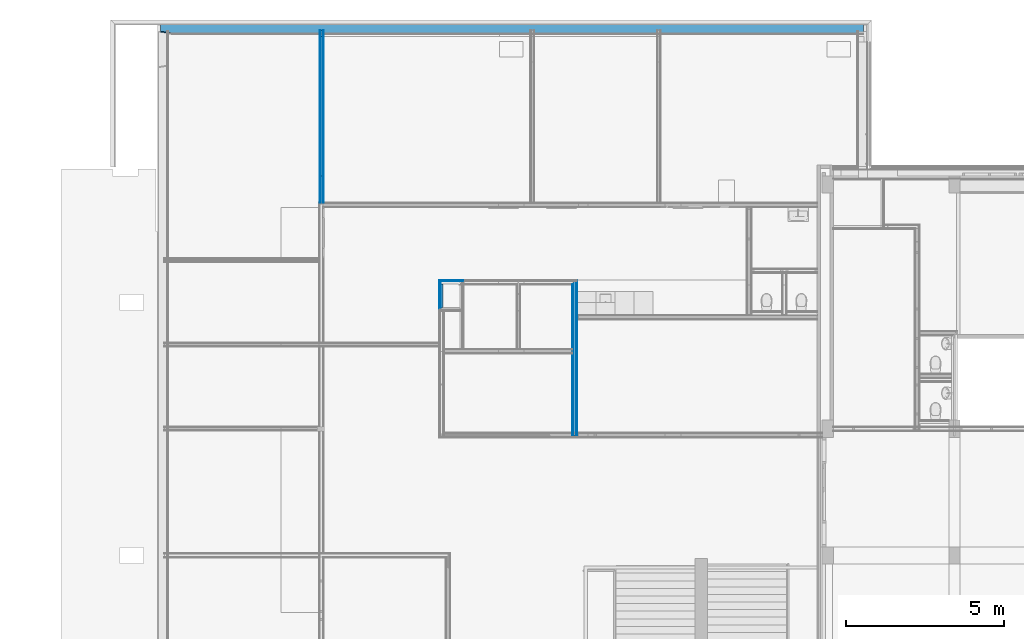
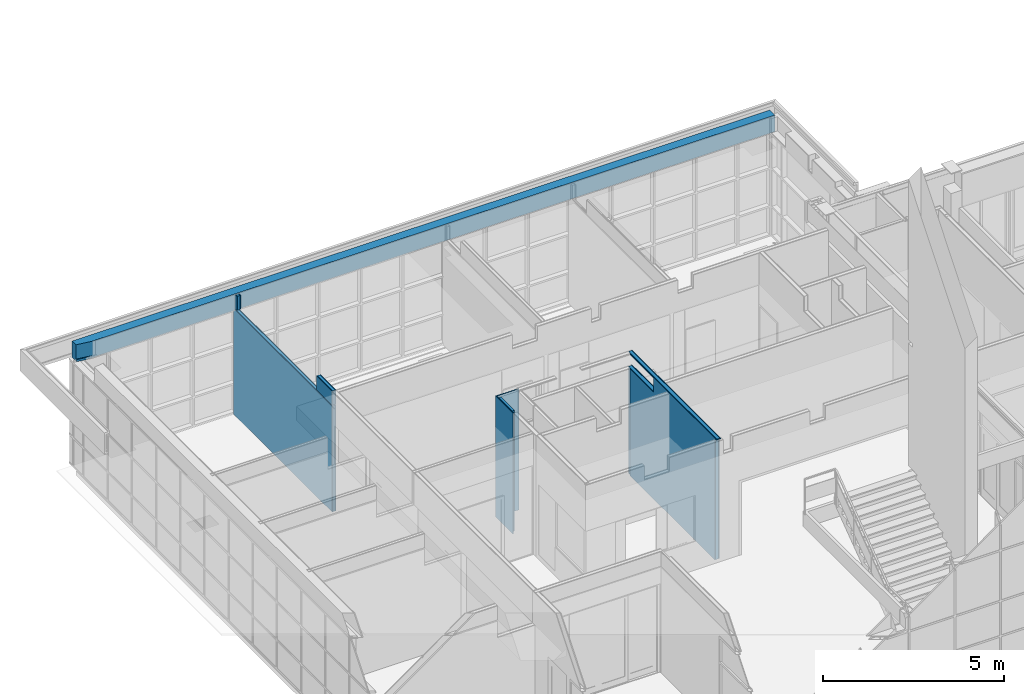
# One storey, part 43 of 109: 18 building element parts, 5 elements without a shape of their own.
"""IFC2X3 building model written with IfcOpenShell, lengths in millimetres."""

from ifc_helpers import new_model, entity, si_unit, converted_unit, derived_unit, money_unit, direction, frame, origin_with_axes, place, context, subcontext, project, spatial, faceted_brep, material, type_object, element, aggregate, save


model = new_model("IFC2X3")

# Units and contexts
model_context = context("Model", 3, precision=0.01, world=origin_with_axes(), true_north=direction((0.0, 1.0)))
body_context = subcontext(model_context, "Body", "Model", "MODEL_VIEW")
ifc_project = project(units=[si_unit("LENGTHUNIT", "METRE", prefix="MILLI"), si_unit("AREAUNIT", "SQUARE_METRE"), si_unit("VOLUMEUNIT", "CUBIC_METRE"), converted_unit("PLANEANGLEUNIT", "DEGREE", entity("IfcPlaneAngleMeasure", 0.0174532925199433), si_unit("PLANEANGLEUNIT", "RADIAN"), dimensions=[0, 0, 0, 0, 0, 0, 0]), money_unit("EUR"), converted_unit("TIMEUNIT", "Year", entity("IfcTimeMeasure", 31557600.0), si_unit("TIMEUNIT", "SECOND"), dimensions=[0, 0, 1, 0, 0, 0, 0]), si_unit("MASSUNIT", "GRAM", prefix="KILO"), si_unit("THERMODYNAMICTEMPERATUREUNIT", "DEGREE_CELSIUS"), si_unit("LUMINOUSINTENSITYUNIT", "LUMEN"), si_unit("ENERGYUNIT", "JOULE", prefix="MEGA"), derived_unit("THERMALCONDUCTANCEUNIT", [(si_unit("POWERUNIT", "WATT"), 1), (si_unit("LENGTHUNIT", "METRE"), -1), (si_unit("THERMODYNAMICTEMPERATUREUNIT", "KELVIN"), -1)]), derived_unit("SPECIFICHEATCAPACITYUNIT", [(si_unit("ENERGYUNIT", "JOULE"), 1), (si_unit("MASSUNIT", "GRAM", prefix="KILO"), -1), (si_unit("THERMODYNAMICTEMPERATUREUNIT", "KELVIN"), -1)]), derived_unit("MASSDENSITYUNIT", [(si_unit("MASSUNIT", "GRAM", prefix="KILO"), 1), (si_unit("VOLUMEUNIT", "CUBIC_METRE"), -1)])], contexts=[model_context])

# Site, building, storey
site_placement = place(None, origin_with_axes())
site = spatial("IfcSite", under=ifc_project, at=site_placement, Name="<site naam>", CompositionType="ELEMENT")
building_placement = place(site_placement, origin_with_axes())
building = spatial("IfcBuilding", under=site, at=building_placement, Name="<Naam gebouw>", CompositionType="ELEMENT")
storey_placement = place(building_placement, origin_with_axes())
storey = spatial("IfcBuildingStorey", under=building, at=storey_placement, Name="00 Begane grond", CompositionType="ELEMENT", Elevation=0.0)

# Wall, building element parts
wall_type_1 = type_object("IfcWallType", Name="MS-01 GF 150 ECO DGS/2.100.2.A 150", PredefinedType="NOTDEFINED")
wall_1_placement = place(storey_placement, frame((4000.000000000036, 11800.00000000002, 0.0), z_axis=(0.0, 0.0, 1.0), x_axis=(0.0, 1.0, 0.0)))
wall_1 = element("IfcWall", 1, at=wall_1_placement, inside=storey, type_object=wall_type_1, Name="22_Binnenwand_MS-01")
ifc_material_1 = material(Name="gipsplaat")
building_element_part_1_placement = place(wall_1_placement, origin_with_axes())
building_element_part_1 = element("IfcBuildingElementPart", 2, at=building_element_part_1_placement, material=ifc_material_1, Name="gipsplaat", context=body_context, shape_type="Brep", body=[
    faceted_brep([(3449.99999999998, 62.50000000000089, 3600.0), (3449.99999999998, 62.50000000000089, 4070.0), (4762.499999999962, 62.50000000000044, 4070.0), (4762.499999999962, 62.50000000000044, 4100.000044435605), (0.0, 62.50000000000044, 4100.000044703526), (0.0, 62.50000000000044, 4070.0), (75.00000000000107, 62.50000000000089, 4070.0), (74.99999999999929, 62.50000000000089, 0.0), (4762.499999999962, 62.5, 0.0), (4762.499999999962, 62.50000000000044, 3600.0), (3449.99999999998, 75.00000000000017, 3600.0), (3449.99999999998, 75.00000000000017, 4070.0), (4762.499999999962, 75.00000000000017, 4070.0), (4762.499999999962, 75.00000000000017, 4100.000044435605), (0.0, 75.00000000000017, 4100.000044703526), (0.0, 75.00000000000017, 4070.0), (75.00000000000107, 75.00000000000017, 4070.0), (74.99999999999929, 74.99999999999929, 0.0), (4762.499999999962, 75.00000000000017, 0.0), (4762.499999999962, 75.00000000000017, 3600.0)], [[[0, 1, 2, 3, 4, 5, 6, 7, 8, 9]], [[1, 0, 10, 11]], [[12, 2, 1, 11]], [[2, 12, 13, 3]], [[3, 13, 14, 4]], [[14, 15, 5, 4]], [[15, 16, 6, 5]], [[17, 7, 6, 16]], [[8, 7, 17, 18]], [[19, 9, 8, 18]], [[0, 9, 19, 10]], [[10, 19, 18, 17, 16, 15, 14, 13, 12, 11]]]),
])
building_element_part_2_placement = place(wall_1_placement, origin_with_axes())
building_element_part_2 = element("IfcBuildingElementPart", 3, at=building_element_part_2_placement, material=ifc_material_1, Name="gipsplaat", context=body_context, shape_type="Brep", body=[
    faceted_brep([(3449.99999999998, 49.99999999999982, 3600.0), (3449.99999999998, 49.99999999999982, 4070.0), (4774.999999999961, 50.00000000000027, 4070.0), (4774.999999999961, 50.00000000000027, 4100.000044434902), (0.0, 50.00000000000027, 4100.000044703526), (0.0, 50.00000000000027, 4070.0), (75.00000000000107, 49.99999999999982, 4070.0), (74.99999999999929, 50.00000000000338, 0.0), (4774.999999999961, 49.99999999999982, 0.0), (4774.999999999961, 50.00000000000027, 3600.0), (3449.99999999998, 62.50000000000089, 3600.0), (3449.99999999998, 62.50000000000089, 4070.0), (4774.999999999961, 62.50000000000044, 4070.0), (4774.999999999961, 62.50000000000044, 4100.000044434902), (0.0, 62.50000000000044, 4100.000044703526), (0.0, 62.50000000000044, 4070.0), (75.00000000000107, 62.50000000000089, 4070.0), (74.99999999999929, 62.50000000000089, 0.0), (4774.999999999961, 62.5, 0.0), (4774.999999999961, 62.50000000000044, 3600.0)], [[[0, 1, 2, 3, 4, 5, 6, 7, 8, 9]], [[1, 0, 10, 11]], [[12, 2, 1, 11]], [[2, 12, 13, 3]], [[3, 13, 14, 4]], [[14, 15, 5, 4]], [[15, 16, 6, 5]], [[17, 7, 6, 16]], [[8, 7, 17, 18]], [[19, 9, 8, 18]], [[0, 9, 19, 10]], [[10, 19, 18, 17, 16, 15, 14, 13, 12, 11]]]),
])
building_element_part_3_placement = place(wall_1_placement, origin_with_axes())
building_element_part_3 = element("IfcBuildingElementPart", 4, at=building_element_part_3_placement, material=ifc_material_1, Name="gipsplaat", context=body_context, shape_type="Brep", body=[
    faceted_brep([(3449.99999999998, -74.99999999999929, 3600.0), (3449.99999999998, -74.99999999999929, 4070.0), (4899.999999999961, -75.00000000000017, 4070.0), (4899.999999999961, -75.00000000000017, 4100.00004442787), (0.0, -75.00000000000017, 4100.000044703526), (0.0, -75.00000000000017, 4070.0), (75.00000000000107, -74.99999999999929, 4070.0), (74.99999999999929, -74.99999999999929, 0.0), (4899.999999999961, -75.00000000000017, 0.0), (4899.999999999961, -75.00000000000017, 3600.0), (3449.99999999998, -62.5, 3600.0), (3449.99999999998, -62.5, 4070.0), (4899.999999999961, -62.5, 4070.0), (4899.999999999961, -62.5, 4100.00004442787), (0.0, -62.5, 4100.000044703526), (0.0, -62.5, 4070.0), (75.00000000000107, -62.5, 4070.0), (74.99999999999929, -62.5, 0.0), (4899.999999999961, -62.5, 0.0), (4899.999999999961, -62.5, 3600.0)], [[[0, 1, 2, 3, 4, 5, 6, 7, 8, 9]], [[1, 0, 10, 11]], [[12, 2, 1, 11]], [[2, 12, 13, 3]], [[3, 13, 14, 4]], [[14, 15, 5, 4]], [[15, 16, 6, 5]], [[17, 7, 6, 16]], [[8, 7, 17, 18]], [[19, 9, 8, 18]], [[0, 9, 19, 10]], [[10, 19, 18, 17, 16, 15, 14, 13, 12, 11]]]),
])
ifc_material_2 = material(Name="isolatie_steenwol LSW")
building_element_part_4_placement = place(wall_1_placement, origin_with_axes())
building_element_part_4 = element("IfcBuildingElementPart", 5, at=building_element_part_4_placement, material=ifc_material_2, Name="isolatie_steenwol LSW", context=body_context, shape_type="Brep", body=[
    faceted_brep([(3449.99999999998, -49.99999999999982, 3600.0), (3449.99999999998, -49.99999999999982, 4070.0), (4874.999999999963, -49.99999999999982, 4070.0), (4874.999999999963, -49.99999999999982, 4100.000044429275), (0.0, -49.99999999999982, 4100.000044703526), (0.0, -49.99999999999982, 4070.0), (75.00000000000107, -49.99999999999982, 4070.0), (74.99999999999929, -49.99999999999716, 0.0), (4874.999999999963, -49.99999999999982, 0.0), (4874.999999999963, -49.99999999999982, 3600.0), (3449.99999999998, 49.99999999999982, 3600.0), (3449.99999999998, 49.99999999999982, 4070.0), (4874.999999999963, 50.00000000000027, 4070.0), (4874.999999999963, 50.00000000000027, 4100.000044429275), (0.0, 50.00000000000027, 4100.000044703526), (0.0, 50.00000000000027, 4070.0), (75.00000000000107, 49.99999999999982, 4070.0), (74.99999999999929, 50.00000000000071, 0.0), (4874.999999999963, 49.99999999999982, 0.0), (4874.999999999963, 50.00000000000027, 3600.0)], [[[0, 1, 2, 3, 4, 5, 6, 7, 8, 9]], [[1, 0, 10, 11]], [[12, 2, 1, 11]], [[2, 12, 13, 3]], [[3, 13, 14, 4]], [[14, 15, 5, 4]], [[15, 16, 6, 5]], [[17, 7, 6, 16]], [[8, 7, 17, 18]], [[19, 9, 8, 18]], [[0, 9, 19, 10]], [[10, 19, 18, 17, 16, 15, 14, 13, 12, 11]]]),
])
building_element_part_5_placement = place(wall_1_placement, origin_with_axes())
building_element_part_5 = element("IfcBuildingElementPart", 6, at=building_element_part_5_placement, material=ifc_material_1, Name="gipsplaat", context=body_context, shape_type="Brep", body=[
    faceted_brep([(3449.99999999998, -62.5, 3600.0), (3449.99999999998, -62.5, 4070.0), (4887.499999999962, -62.5, 4070.0), (4887.499999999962, -62.5, 4100.000044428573), (0.0, -62.5, 4100.000044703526), (0.0, -62.5, 4070.0), (75.00000000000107, -62.5, 4070.0), (74.99999999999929, -62.5, 0.0), (4887.499999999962, -62.5, 0.0), (4887.499999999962, -62.5, 3600.0), (3449.99999999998, -49.99999999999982, 3600.0), (3449.99999999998, -49.99999999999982, 4070.0), (4887.499999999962, -49.99999999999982, 4070.0), (4887.499999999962, -49.99999999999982, 4100.000044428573), (0.0, -49.99999999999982, 4100.000044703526), (0.0, -49.99999999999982, 4070.0), (75.00000000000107, -49.99999999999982, 4070.0), (74.99999999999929, -49.99999999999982, 0.0), (4887.499999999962, -49.99999999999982, 0.0), (4887.499999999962, -49.99999999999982, 3600.0)], [[[0, 1, 2, 3, 4, 5, 6, 7, 8, 9]], [[1, 0, 10, 11]], [[12, 2, 1, 11]], [[2, 12, 13, 3]], [[3, 13, 14, 4]], [[14, 15, 5, 4]], [[15, 16, 6, 5]], [[17, 7, 6, 16]], [[8, 7, 17, 18]], [[19, 9, 8, 18]], [[0, 9, 19, 10]], [[10, 19, 18, 17, 16, 15, 14, 13, 12, 11]]]),
])
aggregate(wall_1, [building_element_part_1, building_element_part_2, building_element_part_3, building_element_part_4, building_element_part_5])

wall_type_2 = type_object("IfcWallType", Name="MS-02 GF 125 ECO DGS/2.75.2.A 125", PredefinedType="NOTDEFINED")
wall_2_placement = place(storey_placement, frame((-3999.999999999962, 18999.99999999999, 0.0), z_axis=(0.0, 0.0, 1.0), x_axis=(0.0, 1.0, 0.0)))
wall_2 = element("IfcWall", 7, at=wall_2_placement, inside=storey, type_object=wall_type_2, Name="22_Binnenwand_MS-02")
building_element_part_6_placement = place(wall_2_placement, origin_with_axes())
building_element_part_6 = element("IfcBuildingElementPart", 8, at=building_element_part_6_placement, material=ifc_material_1, Name="gipsplaat", context=body_context, shape_type="Brep", body=[
    faceted_brep([(1000.000000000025, 50.00000000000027, 3600.0), (1000.000000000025, 50.00000000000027, 3620.0), (1000.000000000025, 50.00000000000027, 4070.0), (149.9999999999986, 50.00000000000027, 4070.0), (149.9999999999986, 50.00000000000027, 3600.0), (1000.000000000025, 62.50000000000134, 3620.0), (1000.000000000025, 62.50000000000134, 3600.0), (1000.000000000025, 62.50000000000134, 4070.0), (149.9999999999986, 62.50000000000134, 4070.0), (149.9999999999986, 62.50000000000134, 3600.0)], [[[0, 1, 2, 3, 4]], [[5, 1, 0, 6]], [[1, 5, 7, 2]], [[3, 2, 7, 8]], [[3, 8, 9, 4]], [[6, 0, 4, 9]], [[5, 6, 9, 8, 7]]]),
    faceted_brep([(5400.000000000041, 62.50000000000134, 3620.0), (5400.000000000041, 50.00000000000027, 3620.0), (5400.000000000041, 50.00000000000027, 4070.0), (5400.000000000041, 62.50000000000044, 4070.0), (5400.000000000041, 50.00000000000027, 3600.0), (5400.000000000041, 62.50000000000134, 3600.0), (5468.000245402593, 50.00000000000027, 3600.0), (5468.000245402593, 50.00000000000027, 3560.0), (149.9999999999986, 50.00000000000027, 3560.0), (149.9999999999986, 50.00000000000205, 0.0), (5596.497754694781, 50.00000000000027, 0.0), (5596.497754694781, 50.00000000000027, 4070.0), (5596.497754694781, 62.50000000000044, 4070.0), (5596.497754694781, 62.50000000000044, 0.0), (149.9999999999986, 62.50000000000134, 0.0), (149.9999999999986, 62.50000000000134, 3560.0), (5468.000245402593, 62.50000000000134, 3560.0), (5468.000245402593, 62.50000000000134, 3600.0)], [[[0, 1, 2, 3]], [[4, 1, 0, 5]], [[1, 4, 6, 7, 8, 9, 10, 11, 2]], [[12, 3, 2, 11]], [[5, 0, 3, 12, 13, 14, 15, 16, 17]], [[4, 5, 17, 6]], [[17, 16, 7, 6]], [[16, 15, 8, 7]], [[14, 9, 8, 15]], [[14, 13, 10, 9]], [[10, 13, 12, 11]]]),
])
building_element_part_7_placement = place(wall_2_placement, origin_with_axes())
building_element_part_7 = element("IfcBuildingElementPart", 9, at=building_element_part_7_placement, material=ifc_material_1, Name="gipsplaat", context=body_context, shape_type="Brep", body=[
    faceted_brep([(1000.000000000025, 37.50000000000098, 3600.0), (1000.000000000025, 37.50000000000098, 3620.0), (1000.000000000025, 37.50000000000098, 4070.0), (149.9999999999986, 37.50000000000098, 4070.0), (149.9999999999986, 37.50000000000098, 3600.0), (1000.000000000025, 50.00000000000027, 3620.0), (1000.000000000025, 50.00000000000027, 3600.0), (1000.000000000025, 50.00000000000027, 4070.0), (149.9999999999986, 50.00000000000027, 4070.0), (149.9999999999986, 50.00000000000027, 3600.0)], [[[0, 1, 2, 3, 4]], [[5, 1, 0, 6]], [[1, 5, 7, 2]], [[3, 2, 7, 8]], [[3, 8, 9, 4]], [[6, 0, 4, 9]], [[5, 6, 9, 8, 7]]]),
    faceted_brep([(5400.000000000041, 50.00000000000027, 3620.0), (5400.000000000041, 37.50000000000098, 3620.0), (5400.000000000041, 37.50000000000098, 4070.0), (5400.000000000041, 50.00000000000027, 4070.0), (5400.000000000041, 37.50000000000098, 3600.0), (5400.000000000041, 50.00000000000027, 3600.0), (5468.000245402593, 37.50000000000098, 3600.0), (5468.000245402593, 37.50000000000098, 3560.0), (149.9999999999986, 37.50000000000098, 3560.0), (149.9999999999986, 37.50000000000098, 0.0), (5596.497754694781, 37.50000000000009, 0.0), (5596.497754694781, 37.50000000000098, 4070.0), (5596.497754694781, 50.00000000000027, 4070.0), (5596.497754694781, 50.00000000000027, 0.0), (149.9999999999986, 50.00000000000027, 0.0), (149.9999999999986, 50.00000000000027, 3560.0), (5468.000245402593, 50.00000000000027, 3560.0), (5468.000245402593, 50.00000000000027, 3600.0)], [[[0, 1, 2, 3]], [[4, 1, 0, 5]], [[1, 4, 6, 7, 8, 9, 10, 11, 2]], [[12, 3, 2, 11]], [[5, 0, 3, 12, 13, 14, 15, 16, 17]], [[4, 5, 17, 6]], [[17, 16, 7, 6]], [[16, 15, 8, 7]], [[14, 9, 8, 15]], [[14, 13, 10, 9]], [[10, 13, 12, 11]]]),
])
building_element_part_8_placement = place(wall_2_placement, origin_with_axes())
building_element_part_8 = element("IfcBuildingElementPart", 10, at=building_element_part_8_placement, material=ifc_material_1, Name="gipsplaat", context=body_context, shape_type="Brep", body=[
    faceted_brep([(1000.000000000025, -49.99999999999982, 3600.0), (1000.000000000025, -50.00000000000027, 3620.0), (1000.000000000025, -49.99999999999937, 4070.0), (149.9999999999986, -49.99999999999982, 4070.0), (149.9999999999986, -49.99999999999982, 3600.0), (1000.000000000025, -37.50000000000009, 3620.0), (1000.000000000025, -37.4999999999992, 3600.0), (1000.000000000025, -37.4999999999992, 4070.0), (149.9999999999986, -37.49999999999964, 4070.0), (149.9999999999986, -37.49999999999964, 3600.0)], [[[0, 1, 2, 3, 4]], [[5, 1, 0, 6]], [[1, 5, 7, 2]], [[3, 2, 7, 8]], [[3, 8, 9, 4]], [[6, 0, 4, 9]], [[5, 6, 9, 8, 7]]]),
    faceted_brep([(5400.000000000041, -37.50000000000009, 3620.0), (5400.000000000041, -50.00000000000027, 3620.0), (5400.000000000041, -49.99999999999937, 4070.0), (5400.000000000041, -37.4999999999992, 4070.0), (5400.000000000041, -50.00000000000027, 3600.0), (5400.000000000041, -37.50000000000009, 3600.0), (5468.000245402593, -50.00000000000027, 3600.0), (5468.000245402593, -50.00000000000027, 3560.0), (149.9999999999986, -49.99999999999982, 3560.0), (149.9999999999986, -49.99999999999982, 0.0), (5596.497754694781, -49.99999999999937, 0.0), (5596.497754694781, -49.99999999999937, 4070.0), (5596.497754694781, -37.4999999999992, 4070.0), (5596.497754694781, -37.50000000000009, 0.0), (149.9999999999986, -37.50000000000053, 0.0), (149.9999999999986, -37.49999999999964, 3560.0), (5468.000245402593, -37.50000000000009, 3560.0), (5468.000245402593, -37.50000000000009, 3600.0)], [[[0, 1, 2, 3]], [[4, 1, 0, 5]], [[1, 4, 6, 7, 8, 9, 10, 11, 2]], [[12, 3, 2, 11]], [[5, 0, 3, 12, 13, 14, 15, 16, 17]], [[4, 5, 17, 6]], [[17, 16, 7, 6]], [[16, 15, 8, 7]], [[14, 9, 8, 15]], [[14, 13, 10, 9]], [[10, 13, 12, 11]]]),
])
building_element_part_9_placement = place(wall_2_placement, origin_with_axes())
building_element_part_9 = element("IfcBuildingElementPart", 11, at=building_element_part_9_placement, material=ifc_material_2, Name="isolatie_steenwol LSW", context=body_context, shape_type="Brep", body=[
    faceted_brep([(1000.000000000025, -37.50000000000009, 3600.0), (1000.000000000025, -37.50000000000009, 3620.0), (1000.000000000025, -37.50000000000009, 4070.0), (149.9999999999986, -37.50000000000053, 4070.0), (149.9999999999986, -37.50000000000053, 3600.0), (1000.000000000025, 37.50000000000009, 3620.0), (1000.000000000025, 37.50000000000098, 3600.0), (1000.000000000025, 37.50000000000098, 4070.0), (149.9999999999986, 37.50000000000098, 4070.0), (149.9999999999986, 37.50000000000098, 3600.0)], [[[0, 1, 2, 3, 4]], [[5, 1, 0, 6]], [[1, 5, 7, 2]], [[3, 2, 7, 8]], [[3, 8, 9, 4]], [[6, 0, 4, 9]], [[5, 6, 9, 8, 7]]]),
    faceted_brep([(5400.000000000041, 37.50000000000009, 3620.0), (5400.000000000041, -37.50000000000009, 3620.0), (5400.000000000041, -37.4999999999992, 4070.0), (5400.000000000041, 37.50000000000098, 4070.0), (5400.000000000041, -37.50000000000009, 3600.0), (5400.000000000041, 37.50000000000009, 3600.0), (5468.000245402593, -37.50000000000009, 3600.0), (5468.000245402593, -37.50000000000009, 3560.0), (149.9999999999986, -37.50000000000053, 3560.0), (149.9999999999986, -37.49999999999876, 0.0), (5596.497754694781, -37.50000000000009, 0.0), (5596.497754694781, -37.4999999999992, 4070.0), (5596.497754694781, 37.50000000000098, 4070.0), (5596.497754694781, 37.50000000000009, 0.0), (149.9999999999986, 37.50000000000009, 0.0), (149.9999999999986, 37.50000000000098, 3560.0), (5468.000245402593, 37.50000000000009, 3560.0), (5468.000245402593, 37.50000000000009, 3600.0)], [[[0, 1, 2, 3]], [[4, 1, 0, 5]], [[1, 4, 6, 7, 8, 9, 10, 11, 2]], [[12, 3, 2, 11]], [[5, 0, 3, 12, 13, 14, 15, 16, 17]], [[4, 5, 17, 6]], [[17, 16, 7, 6]], [[16, 15, 8, 7]], [[14, 9, 8, 15]], [[14, 13, 10, 9]], [[10, 13, 12, 11]]]),
])
building_element_part_10_placement = place(wall_2_placement, origin_with_axes())
building_element_part_10 = element("IfcBuildingElementPart", 12, at=building_element_part_10_placement, material=ifc_material_1, Name="gipsplaat", context=body_context, shape_type="Brep", body=[
    faceted_brep([(1000.000000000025, -62.49999999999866, 3600.0), (1000.000000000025, -62.49999999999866, 3620.0), (1000.000000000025, -62.49999999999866, 4070.0), (149.9999999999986, -62.49999999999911, 4070.0), (149.9999999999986, -62.49999999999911, 3600.0), (1000.000000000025, -50.00000000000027, 3620.0), (1000.000000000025, -49.99999999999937, 3600.0), (1000.000000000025, -49.99999999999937, 4070.0), (149.9999999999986, -49.99999999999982, 4070.0), (149.9999999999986, -49.99999999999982, 3600.0)], [[[0, 1, 2, 3, 4]], [[5, 1, 0, 6]], [[1, 5, 7, 2]], [[3, 2, 7, 8]], [[3, 8, 9, 4]], [[6, 0, 4, 9]], [[5, 6, 9, 8, 7]]]),
    faceted_brep([(5400.000000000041, -50.00000000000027, 3620.0), (5400.000000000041, -62.49999999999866, 3620.0), (5400.000000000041, -62.49999999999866, 4070.0), (5400.000000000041, -49.99999999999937, 4070.0), (5400.000000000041, -62.49999999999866, 3600.0), (5400.000000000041, -50.00000000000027, 3600.0), (5468.000245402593, -62.49999999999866, 3600.0), (5468.000245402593, -62.49999999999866, 3560.0), (149.9999999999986, -62.49999999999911, 3560.0), (149.9999999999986, -62.49999999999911, 0.0), (5596.497754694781, -62.49999999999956, 0.0), (5596.497754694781, -62.49999999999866, 4070.0), (5596.497754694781, -49.99999999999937, 4070.0), (5596.497754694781, -49.99999999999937, 0.0), (149.9999999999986, -49.99999999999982, 0.0), (149.9999999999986, -49.99999999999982, 3560.0), (5468.000245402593, -50.00000000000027, 3560.0), (5468.000245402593, -50.00000000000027, 3600.0)], [[[0, 1, 2, 3]], [[4, 1, 0, 5]], [[1, 4, 6, 7, 8, 9, 10, 11, 2]], [[12, 3, 2, 11]], [[5, 0, 3, 12, 13, 14, 15, 16, 17]], [[4, 5, 17, 6]], [[17, 16, 7, 6]], [[16, 15, 8, 7]], [[14, 9, 8, 15]], [[14, 13, 10, 9]], [[10, 13, 12, 11]]]),
])
aggregate(wall_2, [building_element_part_6, building_element_part_7, building_element_part_8, building_element_part_9, building_element_part_10])

wall_type_3 = type_object("IfcWallType", Name="MS-04 GF 138 V/100.3.A 113", PredefinedType="NOTDEFINED")
wall_3_placement = place(storey_placement, frame((375.0444681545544, 16699.9999757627, 0.0), z_axis=(0.0, 0.0, 1.0), x_axis=(-0.999999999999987, -1.615818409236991e-07, 0.0)))
wall_3 = element("IfcWall", 13, at=wall_3_placement, inside=storey, type_object=wall_type_3, Name="22_Binnenwand_MS-04")
building_element_part_11_placement = place(wall_3_placement, origin_with_axes())
building_element_part_11 = element("IfcBuildingElementPart", 14, at=building_element_part_11_placement, material=ifc_material_1, Name="gipsplaat", context=body_context, shape_type="Brep", body=[
    faceted_brep([(637.5446075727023, 12.49999999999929, 0.0), (-87.49999798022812, 12.49999999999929, 0.0), (-87.4999959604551, 24.99999999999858, 0.0), (637.5446075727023, 24.99999999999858, 0.0), (637.5446075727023, 12.49999999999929, 4070.0), (-87.49999798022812, 12.49999999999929, 4070.0), (-87.4999959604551, 24.99999999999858, 4070.0), (637.5446075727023, 24.99999999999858, 4070.0)], [[[0, 1, 2, 3]], [[4, 5, 1, 0]], [[2, 1, 5, 6]], [[3, 2, 6, 7]], [[3, 7, 4, 0]], [[7, 6, 5, 4]]]),
])
building_element_part_12_placement = place(wall_3_placement, origin_with_axes())
building_element_part_12 = element("IfcBuildingElementPart", 15, at=building_element_part_12_placement, material=ifc_material_1, Name="gipsplaat", context=body_context, shape_type="Brep", body=[
    faceted_brep([(650.0446075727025, 0.0, 0.0), (-100.0000000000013, 0.0, 0.0), (-99.99999798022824, 12.50000000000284, 0.0), (650.0446075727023, 12.49999999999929, 0.0), (650.0446075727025, 0.0, 4070.0), (-100.0000000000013, 0.0, 4070.0), (-99.99999798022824, 12.50000000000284, 4070.0), (650.0446075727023, 12.49999999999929, 4070.0)], [[[0, 1, 2, 3]], [[4, 5, 1, 0]], [[2, 1, 5, 6]], [[3, 2, 6, 7]], [[3, 7, 4, 0]], [[7, 6, 5, 4]]]),
])
building_element_part_13_placement = place(wall_3_placement, origin_with_axes())
building_element_part_13 = element("IfcBuildingElementPart", 16, at=building_element_part_13_placement, material=ifc_material_1, Name="gipsplaat", context=body_context, shape_type="Brep", body=[
    faceted_brep([(625.0446075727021, 25.00000000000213, 0.0), (-74.99999596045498, 25.00000000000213, 0.0), (-74.99999394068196, 37.50000000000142, 0.0), (625.0446075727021, 37.50000000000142, 0.0), (625.0446075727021, 25.00000000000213, 4070.0), (-74.99999596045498, 25.00000000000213, 4070.0), (-74.99999394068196, 37.50000000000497, 4070.0), (625.0446075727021, 37.50000000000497, 4070.0)], [[[0, 1, 2, 3]], [[4, 5, 1, 0]], [[2, 1, 5, 6]], [[3, 2, 6, 7]], [[3, 7, 4, 0]], [[7, 6, 5, 4]]]),
])
aggregate(wall_3, [building_element_part_11, building_element_part_12, building_element_part_13])

# Wall, building element part
wall_type_4 = type_object("IfcWallType", Name="HSB_285 zonder gevelbeplating 313", PredefinedType="NOTDEFINED")
wall_4_placement = place(storey_placement, frame((-9087.46338968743, 24780.50024437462, 3546.974528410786), z_axis=(0.0, 0.0, 1.0), x_axis=(1.0, 0.0, 0.0)))
wall_4 = element("IfcWall", 17, at=wall_4_placement, inside=storey, type_object=wall_type_4, Name="21_Binnenwand_HSB_285")
ifc_material_3 = material(Name="isolatie_houtvezel")
building_element_part_14_placement = place(wall_4_placement, origin_with_axes())
building_element_part_14 = element("IfcBuildingElementPart", 18, at=building_element_part_14_placement, material=ifc_material_3, Name="isolatie_houtvezel", context=body_context, shape_type="Brep", body=[
    faceted_brep([(0.0, -210.5840897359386, 553.0254229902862), (476.2618256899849, -285.0000000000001, 553.0254229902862), (22214.96341382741, -285.0000000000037, 553.0254229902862), (22214.96341382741, 0.0, 553.0254229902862), (0.0, 0.0, 553.0254229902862), (476.2618256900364, -285.0000000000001, 73.02547158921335), (0.0, -210.584089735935, 73.0254715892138), (272.1864542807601, -284.9999999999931, 73.02547158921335), (272.1864542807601, -285.0000000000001, 0.0), (22214.96341382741, -285.0000000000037, 0.0), (22214.96341382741, 0.0, 0.0), (0.0, 0.0, 0.0), (0.0, -242.4708665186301, 0.0), (0.0, -242.4708665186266, 73.0254715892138)], [[[0, 1, 2, 3, 4]], [[5, 1, 0, 6]], [[5, 7, 8, 9, 2, 1]], [[3, 2, 9, 10]], [[4, 3, 10, 11]], [[6, 0, 4, 11, 12, 13]], [[7, 5, 6, 13]], [[7, 13, 12, 8]], [[8, 12, 11, 10, 9]]]),
])
aggregate(wall_4, [building_element_part_14])

# Wall, building element parts
wall_5_placement = place(storey_placement, frame((-275.0001394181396, 16699.9998707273, 0.0), z_axis=(0.0, 0.0, 1.0), x_axis=(1.615818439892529e-07, -0.999999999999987, 0.0)))
wall_5 = element("IfcWall", 19, at=wall_5_placement, inside=storey, type_object=wall_type_3, Name="22_Binnenwand_MS-04")
building_element_part_15_placement = place(wall_5_placement, origin_with_axes())
building_element_part_15 = element("IfcBuildingElementPart", 20, at=building_element_part_15_placement, material=ifc_material_2, Name="isolatie_steenwol LSW", context=body_context, shape_type="Brep", body=[
    faceted_brep([(862.8332101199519, 37.49999999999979, 0.0), (112.5000000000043, 37.49999999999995, 0.0), (112.5000000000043, 112.4999999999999, 0.0), (862.8332222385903, 112.4999999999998, 0.0), (862.8332101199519, 37.50000000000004, 4070.0), (112.5000000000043, 37.5000000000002, 4070.0), (112.5000000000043, 112.5000000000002, 4070.0), (862.8332222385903, 112.5, 4070.0)], [[[0, 1, 2, 3]], [[4, 5, 1, 0]], [[2, 1, 5, 6]], [[3, 2, 6, 7]], [[3, 7, 4, 0]], [[7, 6, 5, 4]]]),
])
building_element_part_16_placement = place(wall_5_placement, origin_with_axes())
building_element_part_16 = element("IfcBuildingElementPart", 21, at=building_element_part_16_placement, material=ifc_material_1, Name="gipsplaat", context=body_context, shape_type="Brep", body=[
    faceted_brep([(937.8332081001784, 24.99999999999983, 0.0), (37.50000000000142, 25.00000000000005, 0.0), (37.50000000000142, 37.49999999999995, 0.0), (937.8332101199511, 37.49999999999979, 0.0), (937.8332081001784, 25.00000000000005, 4070.0), (37.50000000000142, 25.00000000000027, 4070.0), (37.50000000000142, 37.5000000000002, 4070.0), (937.8332101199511, 37.50000000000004, 4070.0)], [[[0, 1, 2, 3]], [[4, 5, 1, 0]], [[2, 1, 5, 6]], [[3, 2, 6, 7]], [[3, 7, 4, 0]], [[7, 6, 5, 4]]]),
])
building_element_part_17_placement = place(wall_5_placement, origin_with_axes())
building_element_part_17 = element("IfcBuildingElementPart", 22, at=building_element_part_17_placement, material=ifc_material_1, Name="gipsplaat", context=body_context, shape_type="Brep", body=[
    faceted_brep([(950.3332060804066, 12.49999999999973, 0.0), (24.99999999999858, 12.49999999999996, 0.0), (24.99999999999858, 25.00000000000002, 0.0), (950.3332081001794, 24.99999999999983, 0.0), (950.3332060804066, 12.49999999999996, 4070.0), (24.99999999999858, 12.50000000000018, 4070.0), (24.99999999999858, 25.00000000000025, 4070.0), (950.3332081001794, 25.00000000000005, 4070.0)], [[[0, 1, 2, 3]], [[4, 5, 1, 0]], [[2, 1, 5, 6]], [[3, 2, 6, 7]], [[3, 7, 4, 0]], [[7, 6, 5, 4]]]),
])
building_element_part_18_placement = place(wall_5_placement, origin_with_axes())
building_element_part_18 = element("IfcBuildingElementPart", 23, at=building_element_part_18_placement, material=ifc_material_1, Name="gipsplaat", context=body_context, shape_type="Brep", body=[
    faceted_brep([(962.8332040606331, 0.0, 0.0), (12.49999999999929, 0.0, 0.0), (12.49999999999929, 12.50000000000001, 0.0), (962.833206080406, 12.49999999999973, 0.0), (962.8332040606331, 0.0, 4070.0), (12.49999999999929, 0.0, 4070.0), (12.49999999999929, 12.50000000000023, 4070.0), (962.833206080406, 12.49999999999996, 4070.0)], [[[0, 1, 2, 3]], [[4, 5, 1, 0]], [[2, 1, 5, 6]], [[3, 2, 6, 7]], [[3, 7, 4, 0]], [[7, 6, 5, 4]]]),
])
aggregate(wall_5, [building_element_part_15, building_element_part_16, building_element_part_17, building_element_part_18])

save(model, "model.ifc")
